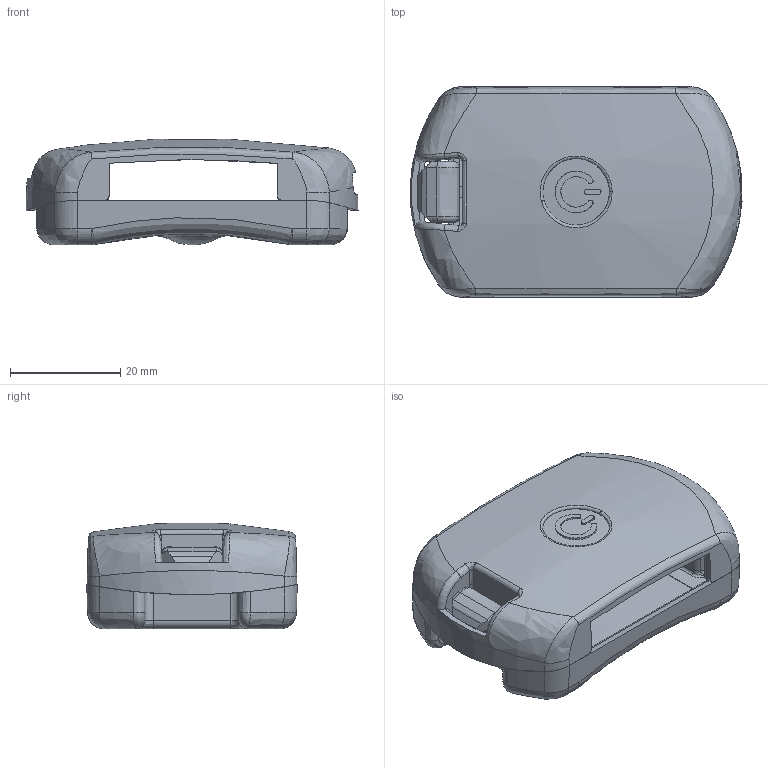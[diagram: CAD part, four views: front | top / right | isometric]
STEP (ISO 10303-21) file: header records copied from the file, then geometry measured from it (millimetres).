
FILE_DESCRIPTION(/* description */ (''),/* implementation_level */ '2;1');
FILE_NAME(/* name */ 'CP17.stp',/* time_stamp */ '2019-05-04T11:55:26+08:00',/* author */ (''),/* organization */ (''),/* preprocessor_version */ 'ST-DEVELOPER v16',/* originating_system */ 'SIEMENS PLM Software NX 10.0',/* authorisation */ '');
FILE_SCHEMA (('AUTOMOTIVE_DESIGN { 1 0 10303 214 3 1 1 1 }'));
Length unit declared in the file: millimetre
Products named in the file (3): CP2_id6_x_t; CP1_id11_x_t; 零件003_x_t
Assembly tree (2 placements, depth 2):
  零件003_x_t
    CP1_id11_x_t
    CP2_id6_x_t
Bounding box: 60.25 x 38.19 x 19.17 mm (x, y, z)
Volume: 11224.2 mm3; surface area: 12223.2 mm2
Topology: 2 solids, 2 shells, 328 faces, 829 edges, 491 vertices
Faces by surface type: bspline 252, plane 43, cylinder 29, torus 4
Entity records: 17271 total; most frequent: CARTESIAN_POINT 11848, ORIENTED_EDGE 1630, EDGE_CURVE 815, B_SPLINE_CURVE_WITH_KNOTS 556, VERTEX_POINT 491, EDGE_LOOP 332, ADVANCED_FACE 328, FACE_OUTER_BOUND 325
